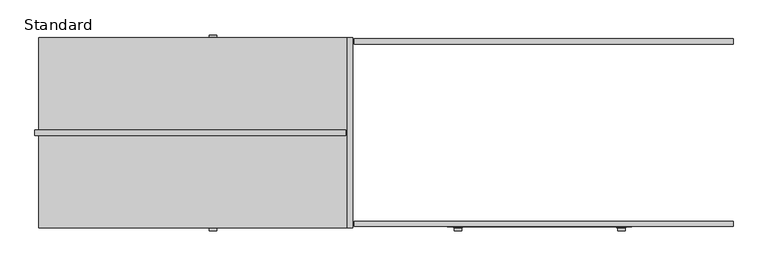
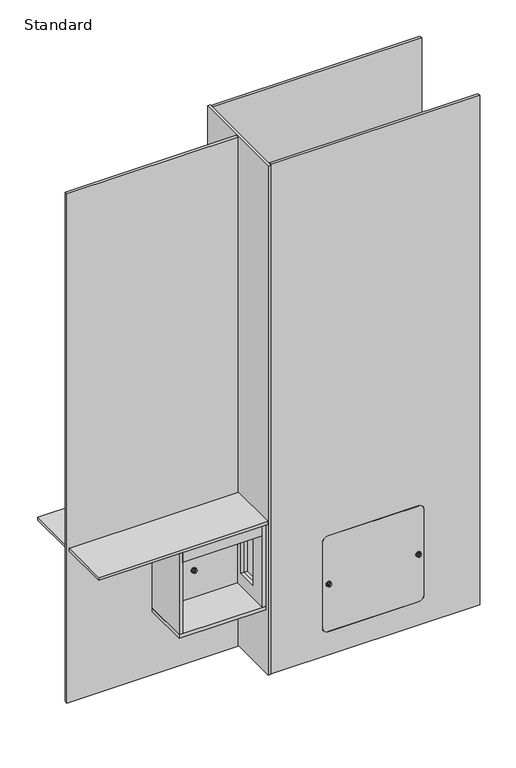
"""IFC4 building model written with IfcOpenShell, lengths in millimetres: furniture geometry, X_Partition-Compact Laminate-Duracube-Basin Rectangular : Standard."""

import ifcopenshell
import ifcopenshell.guid

model = None  # the IFC model being written
_history = None  # IfcOwnerHistory: only IFC2X3 demands one
_inside = {}  # id of a spatial element -> (the spatial element, [elements in it])
_under = {}  # id of a project, library or spatial element -> (it, [spatial elements below it])
_declared = {}  # id of a project -> (the project, [libraries it declares])
_typed = {}  # id of a type object -> (the type object, [elements of that type])
_made_of = {}  # id of a material, layer set ... -> (it, [elements and type objects made of it])


def new_model(schema):
    """Start an empty IFC model of exactly this schema.

    Asked for "IFC4X3", IfcOpenShell would pick the latest addendum, in which some entities
    have other attributes; the version numbers below select the first issue.
    IFC2X3 requires an IfcOwnerHistory on every rooted entity: one is made here for all.
    """
    global model, _history
    if schema == "IFC4X3":
        model = ifcopenshell.file(schema_version=(4, 3, 0, 0))
    else:
        model = ifcopenshell.file(schema=schema)
    _inside.clear()
    _under.clear()
    _declared.clear()
    _typed.clear()
    _made_of.clear()
    _history = None
    if model.schema == "IFC2X3":
        org = make("IfcOrganization", Name="unknown")
        user = make(
            "IfcPersonAndOrganization",
            ThePerson=make("IfcPerson", FamilyName="unknown"),
            TheOrganization=org,
        )
        app = make(
            "IfcApplication",
            ApplicationDeveloper=org,
            Version="unknown",
            ApplicationFullName="unknown",
            ApplicationIdentifier="unknown",
        )
        _history = make(
            "IfcOwnerHistory",
            OwningUser=user,
            OwningApplication=app,
            ChangeAction="ADDED",
            CreationDate=0,
        )
    return model


def make(cls, **values):
    """One entity of the class cls with the attributes given. An attribute that is None is left unset."""
    return model.create_entity(
        cls, **{name: value for name, value in values.items() if value is not None}
    )


def rooted(cls, **values):
    """An entity with a GlobalId (a new one), such as an element, a storey or a relation."""
    return make(cls, GlobalId=ifcopenshell.guid.new(), OwnerHistory=_history, **values)


def si_unit(unit_type, name, prefix=None):
    """IfcSIUnit, for example si_unit("LENGTHUNIT", "METRE", prefix="MILLI")."""
    return make("IfcSIUnit", UnitType=unit_type, Prefix=prefix, Name=name)


def assignment(units):
    """IfcUnitAssignment: the units of a project."""
    return None if units is None else make("IfcUnitAssignment", Units=units)


def point(xyz):
    """IfcCartesianPoint."""
    return None if xyz is None else make("IfcCartesianPoint", Coordinates=xyz)


def direction(xyz):
    """IfcDirection."""
    return None if xyz is None else make("IfcDirection", DirectionRatios=xyz)


def frame(location, z_axis=None, x_axis=None):
    """IfcAxis2Placement3D, a coordinate frame: its origin and axes. An axis left out is left unset."""
    return make(
        "IfcAxis2Placement3D",
        Location=point(location),
        Axis=direction(z_axis),
        RefDirection=direction(x_axis),
    )


def frame_2d(location, x_axis=None):
    """IfcAxis2Placement2D, a coordinate frame in the plane: its origin and x axis."""
    return make(
        "IfcAxis2Placement2D", Location=point(location), RefDirection=direction(x_axis)
    )


def origin():
    """The frame at (0, 0, 0) with its axes left unset."""
    return frame((0.0, 0.0, 0.0))


def origin_with_axes():
    """The frame at (0, 0, 0) with the z axis (0, 0, 1) and the x axis (1, 0, 0) written out."""
    return frame((0.0, 0.0, 0.0), z_axis=(0.0, 0.0, 1.0), x_axis=(1.0, 0.0, 0.0))


def place(relative_to, where):
    """IfcLocalPlacement: puts the frame where relative to a parent placement (None: the world)."""
    return make(
        "IfcLocalPlacement", PlacementRelTo=relative_to, RelativePlacement=where
    )


def context(
    kind, dimensions, precision=None, world=None, true_north=None, identifier=None
):
    """IfcGeometricRepresentationContext, for example the 3D "Model" context."""
    return make(
        "IfcGeometricRepresentationContext",
        ContextIdentifier=identifier,
        ContextType=kind,
        CoordinateSpaceDimension=dimensions,
        Precision=precision,
        WorldCoordinateSystem=world,
        TrueNorth=true_north,
    )


def project(units=None, contexts=None):
    """IfcProject with its units and contexts."""
    return rooted(
        "IfcProject",
        Name="project",
        RepresentationContexts=contexts,
        UnitsInContext=assignment(units),
    )


def spatial(cls, under=None, at=None, **own):
    """A site, building, storey or space (cls), placed at a placement, below another one or the project."""
    s = rooted(cls, ObjectPlacement=at, **own)
    if under is not None:
        _under.setdefault(under.id(), (under, []))[1].append(s)
    return s


def polyline(points):
    """IfcPolyline through the points."""
    return make("IfcPolyline", Points=[point(p) for p in points])


def circle_curve(where, radius):
    """IfcCircle in the frame where."""
    return make("IfcCircle", Position=where, Radius=radius)


def ellipse_curve(where, semi_axis1, semi_axis2):
    """IfcEllipse in the frame where."""
    return make(
        "IfcEllipse", Position=where, SemiAxis1=semi_axis1, SemiAxis2=semi_axis2
    )


def trimmed(basis, trim1, trim2, sense, master):
    """IfcTrimmedCurve: the piece of a basis curve between two trims."""
    return make(
        "IfcTrimmedCurve",
        BasisCurve=basis,
        Trim1=trim1,
        Trim2=trim2,
        SenseAgreement=sense,
        MasterRepresentation=master,
    )


def segment(curve, same_sense, transition):
    """IfcCompositeCurveSegment."""
    return make(
        "IfcCompositeCurveSegment",
        Transition=transition,
        SameSense=same_sense,
        ParentCurve=curve,
    )


def composite_curve(segments, self_intersect=None):
    """IfcCompositeCurve: segments joined end to end."""
    return make("IfcCompositeCurve", Segments=segments, SelfIntersect=self_intersect)


def outline(outer, holes=None, kind="AREA"):
    """IfcArbitraryClosedProfileDef: a profile drawn as a closed curve; with holes, ...WithVoids."""
    if holes is None:
        return make("IfcArbitraryClosedProfileDef", ProfileType=kind, OuterCurve=outer)
    return make(
        "IfcArbitraryProfileDefWithVoids",
        ProfileType=kind,
        OuterCurve=outer,
        InnerCurves=holes,
    )


def extrude(swept, where, along, depth):
    """IfcExtrudedAreaSolid: the profile swept, set in the frame where, extruded along a direction by depth."""
    return make(
        "IfcExtrudedAreaSolid",
        SweptArea=swept,
        Position=where,
        ExtrudedDirection=direction(along),
        Depth=depth,
    )


def shape(context_of_items, identifier, shape_type, items):
    """IfcShapeRepresentation: the items that make up one representation, for example the "Body"."""
    return make(
        "IfcShapeRepresentation",
        ContextOfItems=context_of_items,
        RepresentationIdentifier=identifier,
        RepresentationType=shape_type,
        Items=items,
    )


def source(mapping_origin, context_of_items, identifier, shape_type, items):
    """IfcRepresentationMap: a shape defined once, which mapped items show again and again."""
    return make(
        "IfcRepresentationMap",
        MappingOrigin=mapping_origin,
        MappedRepresentation=shape(context_of_items, identifier, shape_type, items),
    )


def transform(
    local_origin,
    x_axis=None,
    y_axis=None,
    z_axis=None,
    scale=None,
    scale2=None,
    scale3=None,
    uniform=True,
):
    """IfcCartesianTransformationOperator3D, or its non-uniform kind. x_axis, y_axis, z_axis: its Axis1, 2, 3."""
    if uniform:
        return make(
            "IfcCartesianTransformationOperator3D",
            Axis1=direction(x_axis),
            Axis2=direction(y_axis),
            LocalOrigin=point(local_origin),
            Scale=scale,
            Axis3=direction(z_axis),
        )
    return make(
        "IfcCartesianTransformationOperator3DnonUniform",
        Axis1=direction(x_axis),
        Axis2=direction(y_axis),
        LocalOrigin=point(local_origin),
        Scale=scale,
        Axis3=direction(z_axis),
        Scale2=scale2,
        Scale3=scale3,
    )


def mapped(mapping_source, mapping_target):
    """IfcMappedItem: shows the shape of a source again, moved by a transform."""
    return make(
        "IfcMappedItem", MappingSource=mapping_source, MappingTarget=mapping_target
    )


def made_of(thing, what):
    """Note that an element or type object is made of a material, layer set ...; save() writes the relation."""
    if what is not None:
        _made_of.setdefault(what.id(), (what, []))[1].append(thing)
    return thing


def element(
    cls,
    number,
    at=None,
    inside=None,
    cuts=None,
    type_object=None,
    material=None,
    context=None,
    identifier="Body",
    shape_type=None,
    held_by="IfcProductDefinitionShape",
    body=None,
    shapes=None,
    **own,
):
    """One element of the class cls, such as IfcWall. Its Tag is "e" and its number.

    at: its placement. inside: the storey or other place that contains it. cuts: it is an
    opening in that element (IfcRelVoidsElement). A single representation is given by context,
    identifier, shape_type and body (its items); several are given by shapes. held_by: the class
    of the entity that holds the representations. save() writes the other relations.
    """
    e = rooted(cls, Tag="e%d" % number, ObjectPlacement=at, **own)
    if body is not None:
        shapes = [shape(context, identifier, shape_type, body)]
    if shapes is not None:
        e.Representation = make(held_by, Representations=shapes)
    if inside is not None:
        _inside.setdefault(inside.id(), (inside, []))[1].append(e)
    if cuts is not None:
        rooted(
            "IfcRelVoidsElement", RelatingBuildingElement=cuts, RelatedOpeningElement=e
        )
    if type_object is not None:
        _typed.setdefault(type_object.id(), (type_object, []))[1].append(e)
    return made_of(e, material)


def aggregate(whole, parts):
    """IfcRelAggregates: a whole, such as a stair, and the parts it consists of."""
    return rooted("IfcRelAggregates", RelatingObject=whole, RelatedObjects=parts)


def save(model, path):
    """Write the relations noted so far, then the file.

    IfcRelAggregates (storeys below a building ...), IfcRelContainedInSpatialStructure (elements
    in a storey), IfcRelDefinesByType, IfcRelAssociatesMaterial and IfcRelDeclares: one each for
    every whole, place, type object, material and project.
    """
    for whole, parts in _under.values():
        aggregate(whole, parts)
    for where, things in _inside.values():
        rooted(
            "IfcRelContainedInSpatialStructure",
            RelatedElements=things,
            RelatingStructure=where,
        )
    for kind, things in _typed.values():
        rooted("IfcRelDefinesByType", RelatedObjects=things, RelatingType=kind)
    for what, things in _made_of.values():
        rooted("IfcRelAssociatesMaterial", RelatedObjects=things, RelatingMaterial=what)
    for by, libraries in _declared.values():
        rooted("IfcRelDeclares", RelatingContext=by, RelatedDefinitions=libraries)
    model.write(path)


def plane_surface(at):
    """IfcPlane: the flat surface through the origin of the frame at, square to its z axis."""
    return make("IfcPlane", Position=at)


def revolved_surface(curve, axis_point, axis_direction):
    """IfcSurfaceOfRevolution: the curve turned about the line through axis_point along axis_direction."""
    return make(
        "IfcSurfaceOfRevolution",
        SweptCurve=make("IfcArbitraryOpenProfileDef", ProfileType="CURVE", Curve=curve),
        AxisPosition=make("IfcAxis1Placement", Location=point(axis_point), Axis=direction(axis_direction)),
    )


def advanced_brep(points, edges, surfaces, faces):
    """IfcAdvancedBrep: a solid bounded by faces that lie on surfaces and meet in shared edges.

    An edge is (start, end): straight between two places in points (the first is 0);
    or (start, end, curve); or (start, end, curve, False) where it runs against its curve.
    A face is (place in surfaces, loops), or (place, loops, False) where it looks against
    its surface's normal. A loop lists edges by number (the first is 1), with a minus sign
    where the edge is run from its end to its start. The first loop is the outer one.
    """
    corners = [point(p) for p in points]
    vertices = [make("IfcVertexPoint", VertexGeometry=c) for c in corners]
    made = []
    for start, end, *more in edges:
        made.append(
            make(
                "IfcEdgeCurve",
                EdgeStart=vertices[start],
                EdgeEnd=vertices[end],
                EdgeGeometry=more[0] if more else make("IfcPolyline", Points=[corners[start], corners[end]]),
                SameSense=more[1] if len(more) > 1 else True,
            )
        )
    hull = []
    for where, loops, *sense in faces:
        bounds = []
        for j, loop in enumerate(loops):
            ring = [make("IfcOrientedEdge", EdgeElement=made[abs(k) - 1], Orientation=k > 0) for k in loop]
            bounds.append(
                make(
                    "IfcFaceOuterBound" if j == 0 else "IfcFaceBound",
                    Bound=make("IfcEdgeLoop", EdgeList=ring),
                    Orientation=True,
                )
            )
        hull.append(make("IfcAdvancedFace", Bounds=bounds, FaceSurface=surfaces[where], SameSense=sense[0] if sense else True))
    return make("IfcAdvancedBrep", Outer=make("IfcClosedShell", CfsFaces=hull))


def standard_339cfff9(model_context):
    return source(origin(), model_context, "Body", "SolidModel", [
        extrude(outline(composite_curve([segment(trimmed(circle_curve(frame_2d((609.0, -373.7996736)), 11.0), [point((609.0, -384.7996736))], [point((609.0, -362.7996736))], False, "CARTESIAN"), True, "CONTINUOUS"), segment(trimmed(circle_curve(frame_2d((609.0, -373.7996736)), 11.0), [point((609.0, -362.7996736))], [point((609.0, -384.7996736))], False, "CARTESIAN"), True, "CONTINUOUS")], self_intersect=False)), frame((0.0, 223.5, 0.0), z_axis=(0.0, 1.0, 0.0), x_axis=(0.0, 0.0, 1.0)), (0.0, 0.0, 1.0), 2.0),
        advanced_brep(
        [(-373.7996736, 226.5, 618.0), (-373.7996736, 226.5, 600.0), (-373.7996736, 225.5, 598.0), (-373.7996736, 225.5, 620.0), (-373.7996736, 225.5, 618.0), (-373.7996736, 225.5, 600.0)],
        [
            (0, 1, circle_curve(frame((-373.7996736, 226.5, 609.0), z_axis=(0.0, -1.0, 0.0), x_axis=(0.0, 0.0, -1.0)), 9.0)),
            (1, 2, ellipse_curve(frame((-373.7996736, 225.5, 600.0), z_axis=(-1.0, 0.0, 0.0), x_axis=(0.0, 0.0, -1.0)), 2.0, 1.0)),
            (2, 3, circle_curve(frame((-373.7996736, 225.5, 609.0), z_axis=(0.0, 1.0, 0.0), x_axis=(0.0, 0.0, -1.0)), 11.0)),
            (3, 0, ellipse_curve(frame((-373.7996736, 225.5, 618.0), z_axis=(-1.0, 0.0, 0.0), x_axis=(0.0, 0.0, 1.0)), 2.0, 1.0)),
            (1, 0, circle_curve(frame((-373.7996736, 226.5, 609.0), z_axis=(0.0, -1.0, 0.0), x_axis=(0.0, 0.0, -1.0)), 9.0)),
            (3, 2, circle_curve(frame((-373.7996736, 225.5, 609.0), z_axis=(0.0, 1.0, 0.0), x_axis=(0.0, 0.0, -1.0)), 11.0)),
            (4, 5, circle_curve(frame((-373.7996736, 225.5, 609.0), z_axis=(0.0, -1.0, 0.0), x_axis=(0.0, 0.0, -1.0)), 9.0)),
            (5, 1),
            (0, 4),
            (5, 4, circle_curve(frame((-373.7996736, 225.5, 609.0), z_axis=(0.0, -1.0, 0.0), x_axis=(0.0, 0.0, -1.0)), 9.0)),
            (2, 5),
            (4, 3),
        ],
        [
            revolved_surface(trimmed(ellipse_curve(frame((-373.7996736, 225.5, 600.0), z_axis=(1.0, 0.0, 0.0), x_axis=(0.0, 0.0, -1.0)), 2.0, 1.0), [point((-373.7996736, 225.5, 598.0))], [point((-373.7996736, 226.5, 600.0))], True, "CARTESIAN"), (-373.7996736, 225.5, 609.0), (0.0, 1.0, 0.0)),
            revolved_surface(polyline([(-373.7996736, 226.5, 600.0), (-373.7996736, 225.5, 600.0)]), (-373.7996736, 225.5, 609.0), (0.0, 1.0, 0.0)),
            plane_surface(frame((-373.7996736, 225.5, 609.0), z_axis=(0.0, -1.0, 0.0), x_axis=(0.0, 0.0, -1.0))),
        ],
        [
            (0, [[1, 2, 3, 4]]),
            (0, [[5, -4, 6, -2]]),
            (1, [[7, 8, -1, 9]]),
            (1, [[10, -9, -5, -8]]),
            (2, [[-3, 11, -7, 12]]),
            (2, [[-6, -12, -10, -11]]),
        ],
    ),
        extrude(outline(polyline([(-374.7996736, 232.5), (-372.7996736, 232.5), (-372.7996736, 230.5), (-374.7996736, 230.5), (-374.7996736, 232.5)])), frame((0.0, 0.0, 602.0), z_axis=(0.0, 0.0, 1.0), x_axis=(1.0, 0.0, 0.0)), (0.0, 0.0, 1.0), 14.0),
        extrude(outline(composite_curve([segment(trimmed(circle_curve(frame_2d((609.0, -373.7996736)), 9.0), [point((609.0, -382.7996736))], [point((609.0, -364.7996736))], False, "CARTESIAN"), True, "CONTINUOUS"), segment(trimmed(circle_curve(frame_2d((609.0, -373.7996736)), 9.0), [point((609.0, -364.7996736))], [point((609.0, -382.7996736))], False, "CARTESIAN"), True, "CONTINUOUS")], self_intersect=False), holes=[polyline([(602.0, -372.7996736), (602.0, -374.7996736), (616.0, -374.7996736), (616.0, -372.7996736), (602.0, -372.7996736)])]), frame((0.0, 225.5, 0.0), z_axis=(0.0, 1.0, 0.0), x_axis=(0.0, 0.0, 1.0)), (0.0, 0.0, 1.0), 8.0),
        extrude(outline(composite_curve([segment(trimmed(circle_curve(frame_2d((609.0, -373.7996736)), 11.0), [point((609.0, -384.7996736))], [point((609.0, -362.7996736))], False, "CARTESIAN"), True, "CONTINUOUS"), segment(trimmed(circle_curve(frame_2d((609.0, -373.7996736)), 11.0), [point((609.0, -362.7996736))], [point((609.0, -384.7996736))], False, "CARTESIAN"), True, "CONTINUOUS")], self_intersect=False)), frame((0.0, -238.5, 0.0), z_axis=(0.0, 1.0, 0.0), x_axis=(0.0, 0.0, 1.0)), (0.0, 0.0, 1.0), 2.0),
        advanced_brep(
        [(-373.7996736, -239.5, 600.0), (-373.7996736, -239.5, 618.0), (-373.7996736, -238.5, 620.0), (-373.7996736, -238.5, 598.0), (-373.7996736, -238.5, 600.0), (-373.7996736, -238.5, 618.0)],
        [
            (0, 1, circle_curve(frame((-373.7996736, -239.5, 609.0), z_axis=(0.0, 1.0, 0.0), x_axis=(0.0, 0.0, 1.0)), 9.0)),
            (1, 2, ellipse_curve(frame((-373.7996736, -238.5, 618.0), z_axis=(-1.0, 0.0, 0.0), x_axis=(0.0, 0.0, 1.0)), 2.0, 1.0)),
            (2, 3, circle_curve(frame((-373.7996736, -238.5, 609.0), z_axis=(0.0, -1.0, 0.0), x_axis=(0.0, 0.0, 1.0)), 11.0)),
            (3, 0, ellipse_curve(frame((-373.7996736, -238.5, 600.0), z_axis=(-1.0, 0.0, 0.0), x_axis=(0.0, 0.0, -1.0)), 2.0, 1.0)),
            (1, 0, circle_curve(frame((-373.7996736, -239.5, 609.0), z_axis=(0.0, 1.0, 0.0), x_axis=(0.0, 0.0, 1.0)), 9.0)),
            (3, 2, circle_curve(frame((-373.7996736, -238.5, 609.0), z_axis=(0.0, -1.0, 0.0), x_axis=(0.0, 0.0, 1.0)), 11.0)),
            (4, 5, circle_curve(frame((-373.7996736, -238.5, 609.0), z_axis=(0.0, 1.0, 0.0), x_axis=(0.0, 0.0, 1.0)), 9.0)),
            (5, 1),
            (0, 4),
            (5, 4, circle_curve(frame((-373.7996736, -238.5, 609.0), z_axis=(0.0, 1.0, 0.0), x_axis=(0.0, 0.0, 1.0)), 9.0)),
            (2, 5),
            (4, 3),
        ],
        [
            revolved_surface(trimmed(ellipse_curve(frame((-373.7996736, -238.5, 618.0), z_axis=(1.0, 0.0, 0.0), x_axis=(0.0, 0.0, 1.0)), 2.0, 1.0), [point((-373.7996736, -238.5, 620.0))], [point((-373.7996736, -239.5, 618.0))], True, "CARTESIAN"), (-373.7996736, -238.5, 609.0), (0.0, -1.0, 0.0)),
            revolved_surface(polyline([(-373.7996736, -239.5, 618.0), (-373.7996736, -238.5, 618.0)]), (-373.7996736, -238.5, 609.0), (0.0, -1.0, 0.0)),
            plane_surface(frame((-373.7996736, -238.5, 609.0), z_axis=(0.0, 1.0, 0.0), x_axis=(0.0, 0.0, 1.0))),
        ],
        [
            (0, [[1, 2, 3, 4]]),
            (0, [[5, -4, 6, -2]]),
            (1, [[7, 8, -1, 9]]),
            (1, [[10, -9, -5, -8]]),
            (2, [[-3, 11, -7, 12]]),
            (2, [[-6, -12, -10, -11]]),
        ],
    ),
        extrude(outline(polyline([(-372.7996736, -245.5), (-374.7996736, -245.5), (-374.7996736, -243.5), (-372.7996736, -243.5), (-372.7996736, -245.5)])), frame((0.0, 0.0, 602.0), z_axis=(0.0, 0.0, 1.0), x_axis=(1.0, 0.0, 0.0)), (0.0, 0.0, 1.0), 14.0),
        extrude(outline(composite_curve([segment(trimmed(circle_curve(frame_2d((609.0, -373.7996736)), 9.0), [point((609.0, -382.7996736))], [point((609.0, -364.7996736))], False, "CARTESIAN"), True, "CONTINUOUS"), segment(trimmed(circle_curve(frame_2d((609.0, -373.7996736)), 9.0), [point((609.0, -364.7996736))], [point((609.0, -382.7996736))], False, "CARTESIAN"), True, "CONTINUOUS")], self_intersect=False), holes=[polyline([(616.0, -372.7996736), (602.0, -372.7996736), (602.0, -374.7996736), (616.0, -374.7996736), (616.0, -372.7996736)])]), frame((0.0, -246.5, 0.0), z_axis=(0.0, 1.0, 0.0), x_axis=(0.0, 0.0, 1.0)), (0.0, 0.0, 1.0), 8.0),
        extrude(outline(composite_curve([segment(trimmed(circle_curve(frame_2d((335.0, 625.7003264)), 11.0), [point((335.0, 636.7003264))], [point((335.0, 614.7003264))], False, "CARTESIAN"), True, "CONTINUOUS"), segment(trimmed(circle_curve(frame_2d((335.0, 625.7003264)), 11.0), [point((335.0, 614.7003264))], [point((335.0, 636.7003264))], False, "CARTESIAN"), True, "CONTINUOUS")], self_intersect=False)), frame((0.0, -238.5, 0.0), z_axis=(0.0, 1.0, 0.0), x_axis=(0.0, 0.0, 1.0)), (0.0, 0.0, 1.0), 2.0),
        advanced_brep(
        [(625.7003264, -239.5, 344.0), (625.7003264, -239.5, 326.0), (625.7003264, -238.5, 324.0), (625.7003264, -238.5, 346.0), (625.7003264, -238.5, 344.0), (625.7003264, -238.5, 326.0)],
        [
            (0, 1, circle_curve(frame((625.7003264, -239.5, 335.0), z_axis=(0.0, 1.0, 0.0), x_axis=(0.0, 0.0, -1.0)), 9.0)),
            (1, 2, ellipse_curve(frame((625.7003264, -238.5, 326.0), z_axis=(1.0, 0.0, 0.0), x_axis=(0.0, 0.0, -1.0)), 2.0, 1.0)),
            (2, 3, circle_curve(frame((625.7003264, -238.5, 335.0), z_axis=(0.0, -1.0, 0.0), x_axis=(0.0, 0.0, -1.0)), 11.0)),
            (3, 0, ellipse_curve(frame((625.7003264, -238.5, 344.0), z_axis=(1.0, 0.0, 0.0), x_axis=(0.0, 0.0, 1.0)), 2.0, 1.0)),
            (1, 0, circle_curve(frame((625.7003264, -239.5, 335.0), z_axis=(0.0, 1.0, 0.0), x_axis=(0.0, 0.0, -1.0)), 9.0)),
            (3, 2, circle_curve(frame((625.7003264, -238.5, 335.0), z_axis=(0.0, -1.0, 0.0), x_axis=(0.0, 0.0, -1.0)), 11.0)),
            (4, 5, circle_curve(frame((625.7003264, -238.5, 335.0), z_axis=(0.0, 1.0, 0.0), x_axis=(0.0, 0.0, -1.0)), 9.0)),
            (5, 1),
            (0, 4),
            (5, 4, circle_curve(frame((625.7003264, -238.5, 335.0), z_axis=(0.0, 1.0, 0.0), x_axis=(0.0, 0.0, -1.0)), 9.0)),
            (2, 5),
            (4, 3),
        ],
        [
            revolved_surface(trimmed(ellipse_curve(frame((625.7003264, -238.5, 326.0), z_axis=(-1.0, 0.0, 0.0), x_axis=(0.0, 0.0, -1.0)), 2.0, 1.0), [point((625.7003264, -238.5, 324.0))], [point((625.7003264, -239.5, 326.0))], True, "CARTESIAN"), (625.7003264, -238.5, 335.0), (0.0, -1.0, 0.0)),
            revolved_surface(polyline([(625.7003264, -239.5, 326.0), (625.7003264, -238.5, 326.0)]), (625.7003264, -238.5, 335.0), (0.0, -1.0, 0.0)),
            plane_surface(frame((625.7003264, -238.5, 335.0), z_axis=(0.0, 1.0, 0.0), x_axis=(0.0, 0.0, -1.0))),
        ],
        [
            (0, [[1, 2, 3, 4]]),
            (0, [[5, -4, 6, -2]]),
            (1, [[7, 8, -1, 9]]),
            (1, [[10, -9, -5, -8]]),
            (2, [[-3, 11, -7, 12]]),
            (2, [[-6, -12, -10, -11]]),
        ],
    ),
        extrude(outline(polyline([(626.7003264, -245.5), (624.7003264, -245.5), (624.7003264, -243.5), (626.7003264, -243.5), (626.7003264, -245.5)])), frame((0.0, 0.0, 328.0), z_axis=(0.0, 0.0, 1.0), x_axis=(1.0, 0.0, 0.0)), (0.0, 0.0, 1.0), 14.0),
        extrude(outline(composite_curve([segment(trimmed(circle_curve(frame_2d((335.0, 625.7003264)), 9.0), [point((335.0, 634.7003264))], [point((335.0, 616.7003264))], False, "CARTESIAN"), True, "CONTINUOUS"), segment(trimmed(circle_curve(frame_2d((335.0, 625.7003264)), 9.0), [point((335.0, 616.7003264))], [point((335.0, 634.7003264))], False, "CARTESIAN"), True, "CONTINUOUS")], self_intersect=False), holes=[polyline([(328.0, 624.7003264), (342.0, 624.7003264), (342.0, 626.7003264), (328.0, 626.7003264), (328.0, 624.7003264)])]), frame((0.0, -246.5, 0.0), z_axis=(0.0, 1.0, 0.0), x_axis=(0.0, 0.0, 1.0)), (0.0, 0.0, 1.0), 8.0),
        extrude(outline(composite_curve([segment(trimmed(circle_curve(frame_2d((335.0, 225.7003264)), 11.0), [point((335.0, 236.7003264))], [point((335.0, 214.7003264))], False, "CARTESIAN"), True, "CONTINUOUS"), segment(trimmed(circle_curve(frame_2d((335.0, 225.7003264)), 11.0), [point((335.0, 214.7003264))], [point((335.0, 236.7003264))], False, "CARTESIAN"), True, "CONTINUOUS")], self_intersect=False)), frame((0.0, -238.5, 0.0), z_axis=(0.0, 1.0, 0.0), x_axis=(0.0, 0.0, 1.0)), (0.0, 0.0, 1.0), 2.0),
        advanced_brep(
        [(225.7003264, -239.5, 344.0), (225.7003264, -239.5, 326.0), (225.7003264, -238.5, 324.0), (225.7003264, -238.5, 346.0), (225.7003264, -238.5, 344.0), (225.7003264, -238.5, 326.0)],
        [
            (0, 1, circle_curve(frame((225.7003264, -239.5, 335.0), z_axis=(0.0, 1.0, 0.0), x_axis=(0.0, 0.0, -1.0)), 9.0)),
            (1, 2, ellipse_curve(frame((225.7003264, -238.5, 326.0), z_axis=(1.0, 0.0, 0.0), x_axis=(0.0, 0.0, -1.0)), 2.0, 1.0)),
            (2, 3, circle_curve(frame((225.7003264, -238.5, 335.0), z_axis=(0.0, -1.0, 0.0), x_axis=(0.0, 0.0, -1.0)), 11.0)),
            (3, 0, ellipse_curve(frame((225.7003264, -238.5, 344.0), z_axis=(1.0, 0.0, 0.0), x_axis=(0.0, 0.0, 1.0)), 2.0, 1.0)),
            (1, 0, circle_curve(frame((225.7003264, -239.5, 335.0), z_axis=(0.0, 1.0, 0.0), x_axis=(0.0, 0.0, -1.0)), 9.0)),
            (3, 2, circle_curve(frame((225.7003264, -238.5, 335.0), z_axis=(0.0, -1.0, 0.0), x_axis=(0.0, 0.0, -1.0)), 11.0)),
            (4, 5, circle_curve(frame((225.7003264, -238.5, 335.0), z_axis=(0.0, 1.0, 0.0), x_axis=(0.0, 0.0, -1.0)), 9.0)),
            (5, 1),
            (0, 4),
            (5, 4, circle_curve(frame((225.7003264, -238.5, 335.0), z_axis=(0.0, 1.0, 0.0), x_axis=(0.0, 0.0, -1.0)), 9.0)),
            (2, 5),
            (4, 3),
        ],
        [
            revolved_surface(trimmed(ellipse_curve(frame((225.7003264, -238.5, 326.0), z_axis=(-1.0, 0.0, 0.0), x_axis=(0.0, 0.0, -1.0)), 2.0, 1.0), [point((225.7003264, -238.5, 324.0))], [point((225.7003264, -239.5, 326.0))], True, "CARTESIAN"), (225.7003264, -238.5, 335.0), (0.0, -1.0, 0.0)),
            revolved_surface(polyline([(225.7003264, -239.5, 326.0), (225.7003264, -238.5, 326.0)]), (225.7003264, -238.5, 335.0), (0.0, -1.0, 0.0)),
            plane_surface(frame((225.7003264, -238.5, 335.0), z_axis=(0.0, 1.0, 0.0), x_axis=(0.0, 0.0, -1.0))),
        ],
        [
            (0, [[1, 2, 3, 4]]),
            (0, [[5, -4, 6, -2]]),
            (1, [[7, 8, -1, 9]]),
            (1, [[10, -9, -5, -8]]),
            (2, [[-3, 11, -7, 12]]),
            (2, [[-6, -12, -10, -11]]),
        ],
    ),
        extrude(outline(polyline([(226.7003264, -245.5), (224.7003264, -245.5), (224.7003264, -243.5), (226.7003264, -243.5), (226.7003264, -245.5)])), frame((0.0, 0.0, 328.0), z_axis=(0.0, 0.0, 1.0), x_axis=(1.0, 0.0, 0.0)), (0.0, 0.0, 1.0), 14.0),
        extrude(outline(composite_curve([segment(trimmed(circle_curve(frame_2d((335.0, 225.7003264)), 9.0), [point((335.0, 234.7003264))], [point((335.0, 216.7003264))], False, "CARTESIAN"), True, "CONTINUOUS"), segment(trimmed(circle_curve(frame_2d((335.0, 225.7003264)), 9.0), [point((335.0, 216.7003264))], [point((335.0, 234.7003264))], False, "CARTESIAN"), True, "CONTINUOUS")], self_intersect=False), holes=[polyline([(328.0, 224.7003264), (342.0, 224.7003264), (342.0, 226.7003264), (328.0, 226.7003264), (328.0, 224.7003264)])]), frame((0.0, -246.5, 0.0), z_axis=(0.0, 1.0, 0.0), x_axis=(0.0, 0.0, 1.0)), (0.0, 0.0, 1.0), 8.0),
        extrude(outline(polyline([(-240.0, 2398.0), (227.0, 2398.0), (227.0, 0.0), (-240.0, 0.0), (-240.0, 2398.0)]), holes=[polyline([(-58.0, 375.0), (-58.0, 637.0), (-148.0, 637.0), (-148.0, 375.0), (-58.0, 375.0)]), polyline([(45.0, 637.0), (45.0, 375.0), (135.0, 375.0), (135.0, 637.0), (45.0, 637.0)])]), frame((-44.7996736, 0.0, 0.0), z_axis=(1.0, 0.0, 0.0), x_axis=(0.0, 1.0, 0.0)), (0.0, 0.0, 1.0), 13.0),
        extrude(outline(polyline([(899.2003264, 223.5), (899.2003264, 210.5), (-27.7996736, 210.5), (-27.7996736, 223.5), (899.2003264, 223.5)])), origin_with_axes(), (0.0, 0.0, 1.0), 2398.0),
        extrude(outline(polyline([(2398.0, 899.2003264), (2398.0, -27.7996736), (0.0, -27.7996736), (0.0, 899.2003264), (2398.0, 899.2003264)]), holes=[composite_curve([segment(polyline([(135.0, 199.7003264), (535.0, 199.7003264)]), True, "CONTINUOUS"), segment(trimmed(circle_curve(frame_2d((535.0, 225.7003264)), 26.0), [point((535.0, 199.7003264))], [point((561.0, 225.7003264))], True, "CARTESIAN"), True, "CONTINUOUS"), segment(polyline([(561.0, 225.7003264), (561.0, 625.7003264)]), True, "CONTINUOUS"), segment(trimmed(circle_curve(frame_2d((535.0, 625.7003264)), 26.0), [point((561.0, 625.7003264))], [point((535.0, 651.7003264))], True, "CARTESIAN"), True, "CONTINUOUS"), segment(polyline([(535.0, 651.7003264), (135.0, 651.7003264)]), True, "CONTINUOUS"), segment(trimmed(circle_curve(frame_2d((135.0, 625.7003264)), 26.0), [point((135.0, 651.7003264))], [point((109.0, 625.7003264))], True, "CARTESIAN"), True, "CONTINUOUS"), segment(polyline([(109.0, 625.7003264), (109.0, 225.7003264)]), True, "CONTINUOUS"), segment(trimmed(circle_curve(frame_2d((135.0, 225.7003264)), 26.0), [point((109.0, 225.7003264))], [point((135.0, 199.7003264))], True, "CARTESIAN"), True, "CONTINUOUS")], self_intersect=False)]), frame((0.0, -236.5, 0.0), z_axis=(0.0, 1.0, 0.0), x_axis=(0.0, 0.0, 1.0)), (0.0, 0.0, 1.0), 13.0),
        extrude(outline(composite_curve([segment(trimmed(circle_curve(frame_2d((535.0, 625.7003264)), 25.0), [point((535.0, 650.7003264))], [point((560.0, 625.7003264))], False, "CARTESIAN"), True, "CONTINUOUS"), segment(polyline([(560.0, 625.7003264), (560.0, 225.7003264)]), True, "CONTINUOUS"), segment(trimmed(circle_curve(frame_2d((535.0, 225.7003264)), 25.0), [point((560.0, 225.7003264))], [point((535.0, 200.7003264))], False, "CARTESIAN"), True, "CONTINUOUS"), segment(polyline([(535.0, 200.7003264), (135.0, 200.7003264)]), True, "CONTINUOUS"), segment(trimmed(circle_curve(frame_2d((135.0, 225.7003264)), 25.0), [point((135.0, 200.7003264))], [point((110.0, 225.7003264))], False, "CARTESIAN"), True, "CONTINUOUS"), segment(polyline([(110.0, 225.7003264), (110.0, 625.7003264)]), True, "CONTINUOUS"), segment(trimmed(circle_curve(frame_2d((135.0, 625.7003264)), 25.0), [point((110.0, 625.7003264))], [point((135.0, 650.7003264))], False, "CARTESIAN"), True, "CONTINUOUS"), segment(polyline([(135.0, 650.7003264), (535.0, 650.7003264)]), True, "CONTINUOUS")], self_intersect=False)), frame((0.0, -236.5, 0.0), z_axis=(0.0, 1.0, 0.0), x_axis=(0.0, 0.0, 1.0)), (0.0, 0.0, 1.0), 13.0),
        extrude(outline(polyline([(-48.7996736, 0.0), (-48.7996736, -13.0), (-809.7996736, -13.0), (-809.7996736, 0.0), (-48.7996736, 0.0)])), origin_with_axes(), (0.0, 0.0, 1.0), 2398.0),
        extrude(outline(polyline([(-799.7996736, 227.0), (-44.7996736, 227.0), (-44.7996736, 0.0), (-799.7996736, 0.0), (-799.7996736, 227.0)])), frame((0.0, 0.0, 712.0), z_axis=(0.0, 0.0, 1.0), x_axis=(1.0, 0.0, 0.0)), (0.0, 0.0, 1.0), 13.0),
        extrude(outline(polyline([(-799.7996736, -240.0), (-799.7996736, -13.0), (-44.7996736, -13.0), (-44.7996736, -240.0), (-799.7996736, -240.0)])), frame((0.0, 0.0, 712.0), z_axis=(0.0, 0.0, 1.0), x_axis=(1.0, 0.0, 0.0)), (0.0, 0.0, 1.0), 13.0),
        extrude(outline(polyline([(4.0, 712.0), (210.5, 712.0), (210.5, 316.0), (4.0, 316.0), (4.0, 712.0)]), holes=[polyline([(45.0, 637.0), (45.0, 375.0), (135.0, 375.0), (135.0, 637.0), (45.0, 637.0)])]), frame((-60.7996736, 0.0, 0.0), z_axis=(1.0, 0.0, 0.0), x_axis=(0.0, 1.0, 0.0)), (0.0, 0.0, 1.0), 16.0),
        extrude(outline(polyline([(-415.7996736, 4.0), (-415.7996736, 20.0), (-60.7996736, 20.0), (-60.7996736, 4.0), (-415.7996736, 4.0)])), frame((0.0, 0.0, 316.0), z_axis=(0.0, 0.0, 1.0), x_axis=(1.0, 0.0, 0.0)), (0.0, 0.0, 1.0), 396.0),
        extrude(outline(polyline([(-431.7996736, 210.5), (-415.7996736, 210.5), (-415.7996736, 4.0), (-431.7996736, 4.0), (-431.7996736, 210.5)])), frame((0.0, 0.0, 316.0), z_axis=(0.0, 0.0, 1.0), x_axis=(1.0, 0.0, 0.0)), (0.0, 0.0, 1.0), 396.0),
        extrude(outline(polyline([(-44.7996736, 4.0), (-431.7996736, 4.0), (-431.7996736, 210.5), (-44.7996736, 210.5), (-44.7996736, 4.0)])), frame((0.0, 0.0, 300.0), z_axis=(0.0, 0.0, 1.0), x_axis=(1.0, 0.0, 0.0)), (0.0, 0.0, 1.0), 16.0),
        extrude(outline(polyline([(-223.5, 712.0), (-17.0, 712.0), (-17.0, 316.0), (-223.5, 316.0), (-223.5, 712.0)]), holes=[polyline([(-58.0, 375.0), (-58.0, 637.0), (-148.0, 637.0), (-148.0, 375.0), (-58.0, 375.0)])]), frame((-60.7996736, 0.0, 0.0), z_axis=(1.0, 0.0, 0.0), x_axis=(0.0, 1.0, 0.0)), (0.0, 0.0, 1.0), 16.0),
        extrude(outline(polyline([(-44.7996736, -17.0), (-44.7996736, -223.5), (-431.7996736, -223.5), (-431.7996736, -17.0), (-44.7996736, -17.0)])), frame((0.0, 0.0, 300.0), z_axis=(0.0, 0.0, 1.0), x_axis=(1.0, 0.0, 0.0)), (0.0, 0.0, 1.0), 16.0),
        extrude(outline(polyline([(-415.7996736, -17.0), (-60.7996736, -17.0), (-60.7996736, -33.0), (-415.7996736, -33.0), (-415.7996736, -17.0)])), frame((0.0, 0.0, 316.0), z_axis=(0.0, 0.0, 1.0), x_axis=(1.0, 0.0, 0.0)), (0.0, 0.0, 1.0), 396.0),
        extrude(outline(polyline([(-431.7996736, -223.5), (-431.7996736, -17.0), (-415.7996736, -17.0), (-415.7996736, -223.5), (-431.7996736, -223.5)])), frame((0.0, 0.0, 316.0), z_axis=(0.0, 0.0, 1.0), x_axis=(1.0, 0.0, 0.0)), (0.0, 0.0, 1.0), 396.0),
        extrude(outline(polyline([(-60.7996736, -223.5), (-415.7996736, -223.5), (-415.7996736, -207.5), (-60.7996736, -207.5), (-60.7996736, -223.5)])), frame((0.0, 0.0, 652.0), z_axis=(0.0, 0.0, 1.0), x_axis=(1.0, 0.0, 0.0)), (0.0, 0.0, 1.0), 60.0),
    ])


if __name__ == "__main__":
    model = new_model("IFC4")
    model_context = context("Model", 3, world=origin())
    ifc_project = project(units=[si_unit("LENGTHUNIT", "METRE", prefix="MILLI")], contexts=[model_context])
    site = spatial("IfcSite", under=ifc_project)
    building = spatial("IfcBuilding", under=site)
    placement = place(None, origin())
    standard_shape = standard_339cfff9(model_context)
    element("IfcFurniture", 1, ObjectType="X_Partition-Compact Laminate-Duracube-Basin Rectangular : Standard", at=placement, inside=building, context=model_context, shape_type="MappedRepresentation", body=[
        mapped(standard_shape, transform((0.0, 0.0, 0.0), x_axis=(1.0, 0.0, 0.0), y_axis=(0.0, 1.0, 0.0), z_axis=(0.0, 0.0, 1.0))),
    ])
    save(model, "model.ifc")
